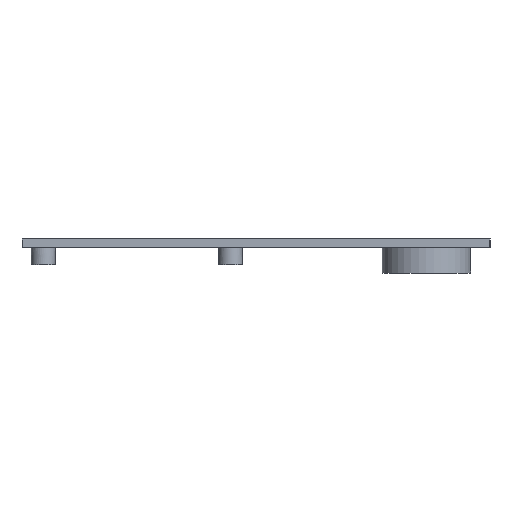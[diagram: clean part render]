
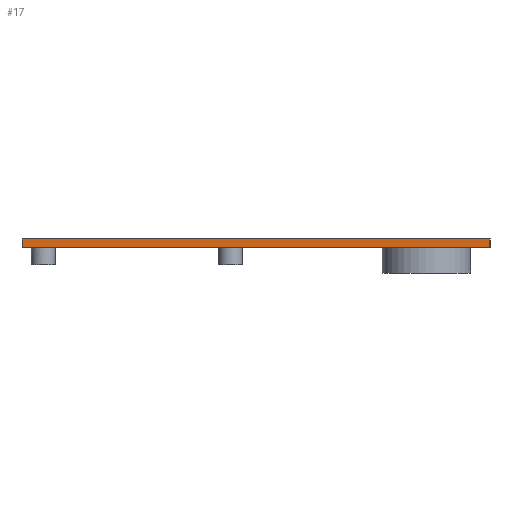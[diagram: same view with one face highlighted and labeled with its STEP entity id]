
A CAD part, left-side view. The second image highlights one B-rep face of the part: STEP entity #17.
In plain terms, the highlighted planar face has unit normal (-1, 0, 0).
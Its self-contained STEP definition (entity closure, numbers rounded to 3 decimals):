
#17 = ADVANCED_FACE('',(#18),#32,.F.);
#18 = FACE_BOUND('',#19,.F.);
#19 = EDGE_LOOP('',(#20,#55,#83,#111));
#20 = ORIENTED_EDGE('',*,*,#21,.F.);
#21 = EDGE_CURVE('',#22,#24,#26,.T.);
#22 = VERTEX_POINT('',#23);
#23 = CARTESIAN_POINT('',(1.3,1.3,67.5));
#24 = VERTEX_POINT('',#25);
#25 = CARTESIAN_POINT('',(1.3,1.3,70.));
#26 = SURFACE_CURVE('',#27,(#31,#43),.PCURVE_S1.);
#27 = LINE('',#28,#29);
#28 = CARTESIAN_POINT('',(1.3,1.3,67.5));
#29 = VECTOR('',#30,1.);
#30 = DIRECTION('',(0.,0.,1.));
#31 = PCURVE('',#32,#37);
#32 = PLANE('',#33);
#33 = AXIS2_PLACEMENT_3D('',#34,#35,#36);
#34 = CARTESIAN_POINT('',(1.3,1.3,67.5));
#35 = DIRECTION('',(1.,0.,-0.));
#36 = DIRECTION('',(0.,0.,1.));
#37 = DEFINITIONAL_REPRESENTATION('',(#38),#42);
#38 = LINE('',#39,#40);
#39 = CARTESIAN_POINT('',(0.,0.));
#40 = VECTOR('',#41,1.);
#41 = DIRECTION('',(1.,0.));
#42 = ( GEOMETRIC_REPRESENTATION_CONTEXT(2) 
PARAMETRIC_REPRESENTATION_CONTEXT() REPRESENTATION_CONTEXT('2D SPACE',''
  ) );
#43 = PCURVE('',#44,#49);
#44 = PLANE('',#45);
#45 = AXIS2_PLACEMENT_3D('',#46,#47,#48);
#46 = CARTESIAN_POINT('',(1.3,1.3,67.5));
#47 = DIRECTION('',(-0.,1.,0.));
#48 = DIRECTION('',(0.,0.,1.));
#49 = DEFINITIONAL_REPRESENTATION('',(#50),#54);
#50 = LINE('',#51,#52);
#51 = CARTESIAN_POINT('',(0.,0.));
#52 = VECTOR('',#53,1.);
#53 = DIRECTION('',(1.,0.));
#54 = ( GEOMETRIC_REPRESENTATION_CONTEXT(2) 
PARAMETRIC_REPRESENTATION_CONTEXT() REPRESENTATION_CONTEXT('2D SPACE',''
  ) );
#55 = ORIENTED_EDGE('',*,*,#56,.T.);
#56 = EDGE_CURVE('',#22,#57,#59,.T.);
#57 = VERTEX_POINT('',#58);
#58 = CARTESIAN_POINT('',(1.3,138.7,67.5));
#59 = SURFACE_CURVE('',#60,(#64,#71),.PCURVE_S1.);
#60 = LINE('',#61,#62);
#61 = CARTESIAN_POINT('',(1.3,1.3,67.5));
#62 = VECTOR('',#63,1.);
#63 = DIRECTION('',(-0.,1.,0.));
#64 = PCURVE('',#32,#65);
#65 = DEFINITIONAL_REPRESENTATION('',(#66),#70);
#66 = LINE('',#67,#68);
#67 = CARTESIAN_POINT('',(0.,0.));
#68 = VECTOR('',#69,1.);
#69 = DIRECTION('',(0.,-1.));
#70 = ( GEOMETRIC_REPRESENTATION_CONTEXT(2) 
PARAMETRIC_REPRESENTATION_CONTEXT() REPRESENTATION_CONTEXT('2D SPACE',''
  ) );
#71 = PCURVE('',#72,#77);
#72 = PLANE('',#73);
#73 = AXIS2_PLACEMENT_3D('',#74,#75,#76);
#74 = CARTESIAN_POINT('',(1.3,1.3,67.5));
#75 = DIRECTION('',(0.,0.,1.));
#76 = DIRECTION('',(1.,0.,-0.));
#77 = DEFINITIONAL_REPRESENTATION('',(#78),#82);
#78 = LINE('',#79,#80);
#79 = CARTESIAN_POINT('',(0.,0.));
#80 = VECTOR('',#81,1.);
#81 = DIRECTION('',(0.,1.));
#82 = ( GEOMETRIC_REPRESENTATION_CONTEXT(2) 
PARAMETRIC_REPRESENTATION_CONTEXT() REPRESENTATION_CONTEXT('2D SPACE',''
  ) );
#83 = ORIENTED_EDGE('',*,*,#84,.T.);
#84 = EDGE_CURVE('',#57,#85,#87,.T.);
#85 = VERTEX_POINT('',#86);
#86 = CARTESIAN_POINT('',(1.3,138.7,70.));
#87 = SURFACE_CURVE('',#88,(#92,#99),.PCURVE_S1.);
#88 = LINE('',#89,#90);
#89 = CARTESIAN_POINT('',(1.3,138.7,67.5));
#90 = VECTOR('',#91,1.);
#91 = DIRECTION('',(0.,0.,1.));
#92 = PCURVE('',#32,#93);
#93 = DEFINITIONAL_REPRESENTATION('',(#94),#98);
#94 = LINE('',#95,#96);
#95 = CARTESIAN_POINT('',(0.,-137.4));
#96 = VECTOR('',#97,1.);
#97 = DIRECTION('',(1.,0.));
#98 = ( GEOMETRIC_REPRESENTATION_CONTEXT(2) 
PARAMETRIC_REPRESENTATION_CONTEXT() REPRESENTATION_CONTEXT('2D SPACE',''
  ) );
#99 = PCURVE('',#100,#105);
#100 = PLANE('',#101);
#101 = AXIS2_PLACEMENT_3D('',#102,#103,#104);
#102 = CARTESIAN_POINT('',(1.3,138.7,67.5));
#103 = DIRECTION('',(-0.,1.,0.));
#104 = DIRECTION('',(0.,0.,1.));
#105 = DEFINITIONAL_REPRESENTATION('',(#106),#110);
#106 = LINE('',#107,#108);
#107 = CARTESIAN_POINT('',(0.,0.));
#108 = VECTOR('',#109,1.);
#109 = DIRECTION('',(1.,0.));
#110 = ( GEOMETRIC_REPRESENTATION_CONTEXT(2) 
PARAMETRIC_REPRESENTATION_CONTEXT() REPRESENTATION_CONTEXT('2D SPACE',''
  ) );
#111 = ORIENTED_EDGE('',*,*,#112,.F.);
#112 = EDGE_CURVE('',#24,#85,#113,.T.);
#113 = SURFACE_CURVE('',#114,(#118,#125),.PCURVE_S1.);
#114 = LINE('',#115,#116);
#115 = CARTESIAN_POINT('',(1.3,1.3,70.));
#116 = VECTOR('',#117,1.);
#117 = DIRECTION('',(-0.,1.,0.));
#118 = PCURVE('',#32,#119);
#119 = DEFINITIONAL_REPRESENTATION('',(#120),#124);
#120 = LINE('',#121,#122);
#121 = CARTESIAN_POINT('',(2.5,0.));
#122 = VECTOR('',#123,1.);
#123 = DIRECTION('',(0.,-1.));
#124 = ( GEOMETRIC_REPRESENTATION_CONTEXT(2) 
PARAMETRIC_REPRESENTATION_CONTEXT() REPRESENTATION_CONTEXT('2D SPACE',''
  ) );
#125 = PCURVE('',#126,#131);
#126 = PLANE('',#127);
#127 = AXIS2_PLACEMENT_3D('',#128,#129,#130);
#128 = CARTESIAN_POINT('',(1.3,1.3,70.));
#129 = DIRECTION('',(0.,0.,1.));
#130 = DIRECTION('',(1.,0.,-0.));
#131 = DEFINITIONAL_REPRESENTATION('',(#132),#136);
#132 = LINE('',#133,#134);
#133 = CARTESIAN_POINT('',(0.,0.));
#134 = VECTOR('',#135,1.);
#135 = DIRECTION('',(0.,1.));
#136 = ( GEOMETRIC_REPRESENTATION_CONTEXT(2) 
PARAMETRIC_REPRESENTATION_CONTEXT() REPRESENTATION_CONTEXT('2D SPACE',''
  ) );
